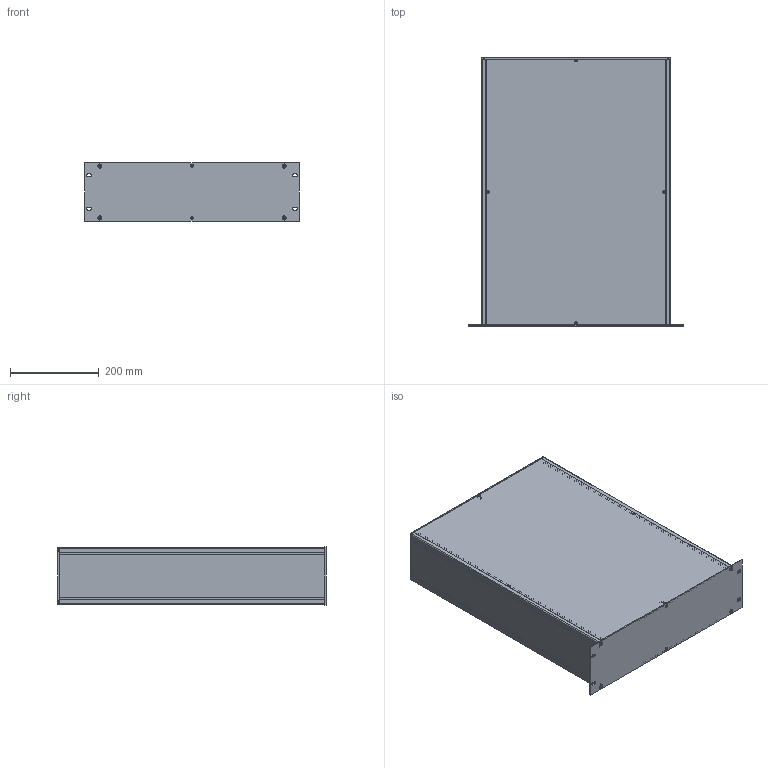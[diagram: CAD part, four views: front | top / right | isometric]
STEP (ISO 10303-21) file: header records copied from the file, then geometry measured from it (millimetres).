
FILE_DESCRIPTION(/* description */ (''),/* implementation_level */ '2;1');
FILE_NAME(/* name */ '//diskstation/Kunden/Gehäuse/Gehäuse/3HE/step/Zoll 3HE Rack Gehäuse Tiefe-600.step',/* time_stamp */ '2022-02-17T15:41:13+01:00',/* author */ (''),/* organization */ (''),/* preprocessor_version */ 'ST-DEVELOPER v18.1',/* originating_system */ 'Autodesk Translation Framework v10.10.0.1391',/* authorisation */ '');
FILE_SCHEMA (('AUTOMOTIVE_DESIGN { 1 0 10303 214 3 1 1 }'));
Length unit declared in the file: millimetre
Products named in the file (28): 3HE Gehäuse mit parametern; Gehäuse; Gehäuseprofil 1 unten links; Gehäuseprofil 2 oben rechts; Gehäuseprofil 1 unten rechts; Gehäuseprofil 2 oben links; Rückplatte; Deckel; Seitenteil links; Seitenteil rechts; Bodenplatte; Montageklotz Front/Deckel; Montageklotz Front/Boden; Montageklotz Rück/Deckel; Montageklotz Rück/Boden; Gewindestreifen; Frontplatte; Schrauben M5; Schraube Front; Schraube Front (1); Schraube Front (2); Schraube Front (3); Schraube Rück (1); Schraube Rück; Schraube Rück (2); Schraube Rück (3); Schrauben M3; HI_Senkschraube DIN 965 A v2 M3x5 24677.030.005(High)
Assembly tree (37 placements, depth 3):
  3HE Gehäuse mit parametern
    Gehäuse
      Gehäuseprofil 1 unten links
      Gehäuseprofil 2 oben rechts
      Gehäuseprofil 1 unten rechts
      Gehäuseprofil 2 oben links
      Rückplatte
      Deckel
      Seitenteil links
      Seitenteil rechts
      Bodenplatte
      Montageklotz Front/Deckel
      Montageklotz Front/Boden
      Montageklotz Rück/Deckel
      Montageklotz Rück/Boden
      Gewindestreifen  x2
    Frontplatte
    Schrauben M5
      Schraube Front
      Schraube Front (1)
      Schraube Front (2)
      Schraube Front (3)
      Schraube Rück (1)
      Schraube Rück
      Schraube Rück (2)
      Schraube Rück (3)
    Schrauben M3
      HI_Senkschraube DIN 965 A v2 M3x5 24677.030.005(High)  x10
Bounding box: 483 x 608.2 x 132.5 mm (x, y, z)
Volume: 1955826.7 mm3; surface area: 1734731.1 mm2
Topology: 34 solids, 34 shells, 944 faces, 2346 edges, 1470 vertices
Faces by surface type: cylinder 422, plane 342, cone 164, torus 8, bspline 8
Full cylindrical faces by diameter (mm): 2.529 x180, 3 x10, 3.2 x10, 4.234 x40, 5 x8, 5.2 x4, 5.3 x8, 5.6 x10, 9.5 x8
Entity records: 18600 total; most frequent: CARTESIAN_POINT 3348, DIRECTION 3135, ORIENTED_EDGE 2760, EDGE_CURVE 1380, AXIS2_PLACEMENT_3D 1195, VERTEX_POINT 868, EDGE_LOOP 866, LINE 745
